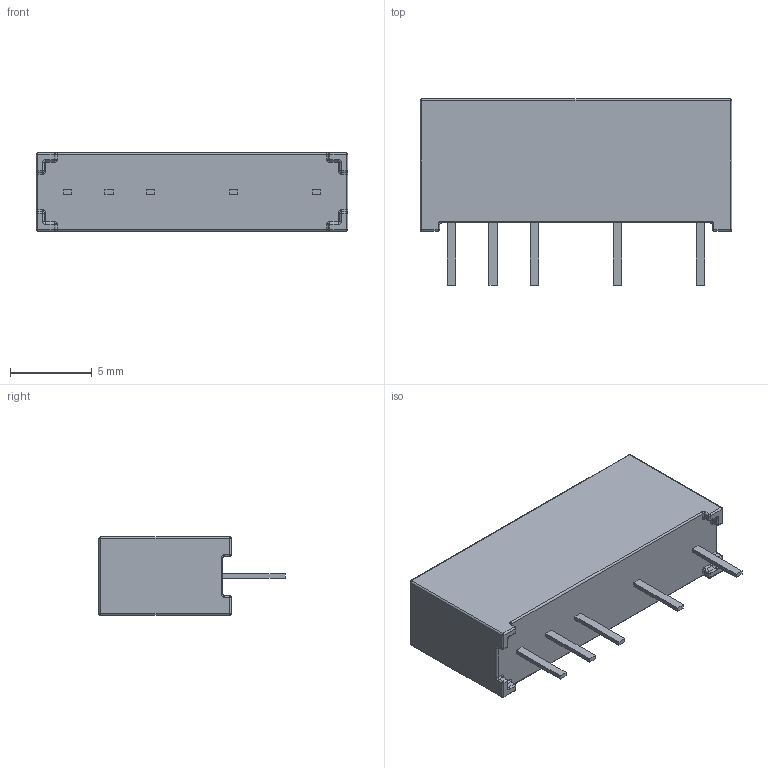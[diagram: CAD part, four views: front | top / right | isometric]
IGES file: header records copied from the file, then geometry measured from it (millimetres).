
Start section: SolidWorks IGES file using analytic representation for surfaces
Global section: file name: C:\Documents and Settings\alex.leming\Desktop\Replacement Models\106-1-C.IGS; native system: SolidWorks 2009; preprocessor: SolidWorks 2009; author: alex.leming; date: 101126.100316; units: millimetre
Bounding box: 19.1 x 11.4 x 4.8 mm (x, y, z)
Surface area: 578.4 mm2 (no closed solid volume)
Topology: 0 solids, 0 shells, 795 faces, 7000 edges, 6972 vertices
Faces by surface type: bspline 695, revolution 100
